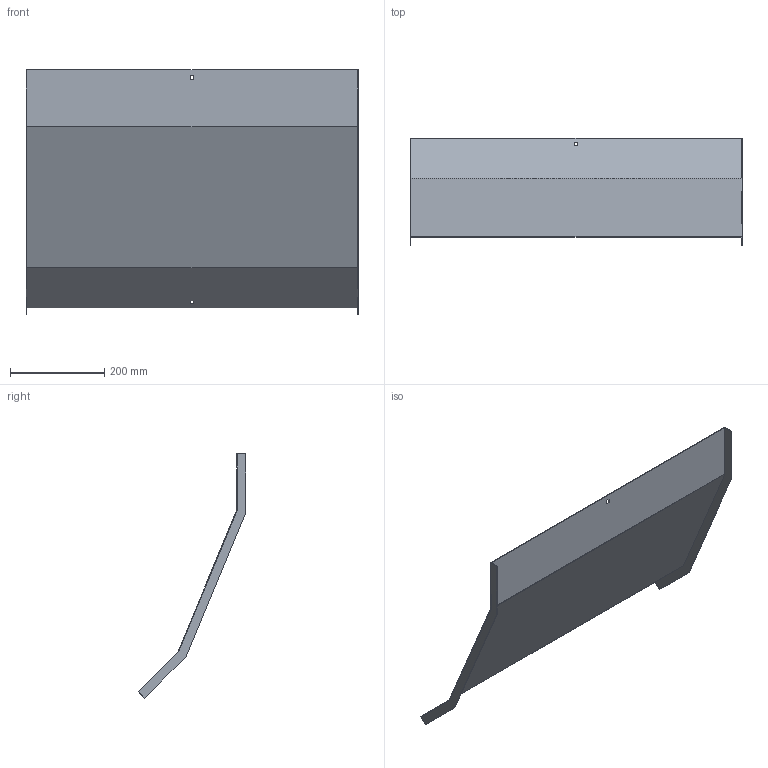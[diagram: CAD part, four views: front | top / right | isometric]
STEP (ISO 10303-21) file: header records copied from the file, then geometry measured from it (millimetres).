
FILE_DESCRIPTION (( 'STEP AP214' ), '1' );
FILE_NAME ('31N5R700_H150.step', '2025-02-21T14:28:50', ( '' ), ( '' ), 'SwSTEP 2.0', 'SolidWorks 2023', '' );
FILE_SCHEMA (( 'AUTOMOTIVE_DESIGN' ));
Length unit declared in the file: millimetre
Products named in the file (1): 31N5R700_H150
Bounding box: 703 x 228.46 x 517.41 mm (x, y, z)
Volume: 625858.5 mm3; surface area: 838525.9 mm2
Topology: 1 solids, 1 shells, 26 faces, 72 edges, 48 vertices
Faces by surface type: plane 26
Entity records: 847 total; most frequent: CARTESIAN_POINT 147, ORIENTED_EDGE 144, DIRECTION 126, VECTOR 72, EDGE_CURVE 72, LINE 72, VERTEX_POINT 48, EDGE_LOOP 30
